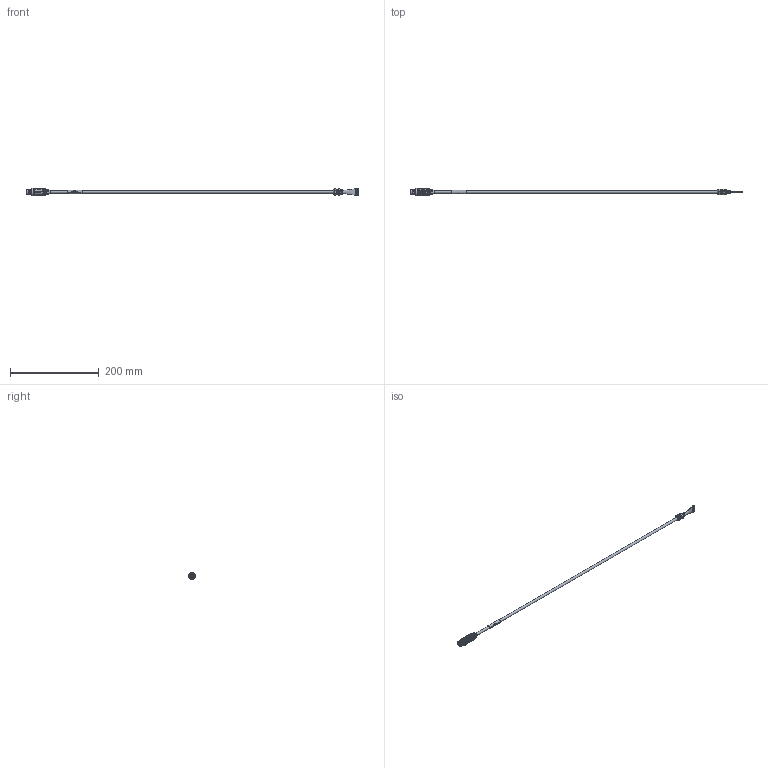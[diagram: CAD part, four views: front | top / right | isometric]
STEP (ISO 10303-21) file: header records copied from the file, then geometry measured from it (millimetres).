
FILE_DESCRIPTION(/* description */ ('VX1349B.01 Serial Pigtail B715E0E35D'),/* implementation_level */ '2;1');
FILE_NAME(/* name */ 'WIR_000219_CUST_iam.STP',/* time_stamp */ '2025-09-01T11:45:21+02:00',/* author */ ('vismat'),/* organization */ (''),/* preprocessor_version */ 'ST-DEVELOPER v20',/* originating_system */ 'Autodesk Inventor 2024',/* authorisation */ '');
FILE_SCHEMA (('AUTOMOTIVE_DESIGN { 1 0 10303 214 3 1 1 }'));
Length unit declared in the file: millimetre
Products named in the file (16): WIR_000219_CUST; WIR_000219; WIR_001104; CMP_002106; LBL_001004; CMP_001390; CMP_001390_S1; CMP_001390_S2; CMP_001390_S3; CMP_001390_S4; CMP_002107; CMP_002100; WIR_000041_SUB1; CMP_002104; CMP_002105; CMP_002830
Assembly tree (29 placements, depth 4):
  WIR_000219_CUST
    WIR_000219
      WIR_001104
      CMP_002106
      LBL_001004
      CMP_001390
        CMP_001390_S1
        CMP_001390_S2
        CMP_001390_S3
        CMP_001390_S4
      CMP_002107
      CMP_002100
      WIR_000041_SUB1
      CMP_002104
      CMP_002105  x15
      CMP_002830
Bounding box: 750 x 17.08 x 18 mm (x, y, z)
Volume: 26006.3 mm3; surface area: 36408.7 mm2
Topology: 30 solids, 34 shells, 6530 faces, 17851 edges, 11716 vertices
Faces by surface type: plane 3951, bspline 1366, cylinder 994, cone 143, torus 62, sphere 14
Full cylindrical faces by diameter (mm): 0.199 x1, 0.237 x1, 0.44 x2, 0.45 x14, 0.5 x14, 0.52 x14, 0.7 x15, 0.8 x14, 0.9 x15, 0.94 x15, 1.02 x14, 1.2 x1, 1.6 x1, 5.8 x1, 5.9 x2, 6 x5, 6.1 x2, 6.132 x1, 6.2 x2, 6.3 x1, 6.5 x1, 6.7 x1, 6.8 x2, 7 x1, 7.2 x2, 7.3 x1, 7.4 x1, 7.5 x1, 7.7 x1, 7.8 x1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
Entity records: 222921 total; most frequent: CARTESIAN_POINT 101291, ORIENTED_EDGE 27142, DIRECTION 20901, EDGE_CURVE 13581, VERTEX_POINT 8972, LINE 7275, VECTOR 7275, AXIS2_PLACEMENT_3D 6813
